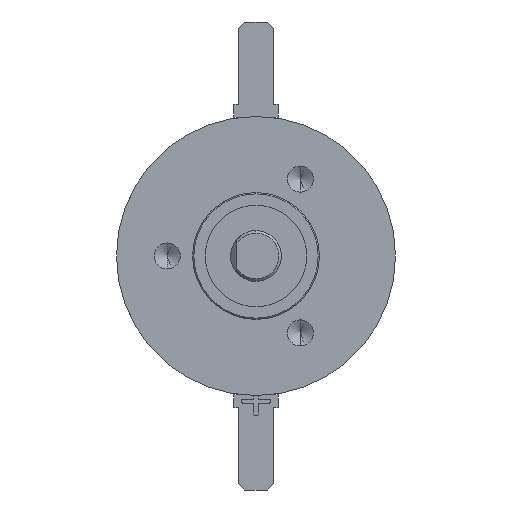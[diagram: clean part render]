
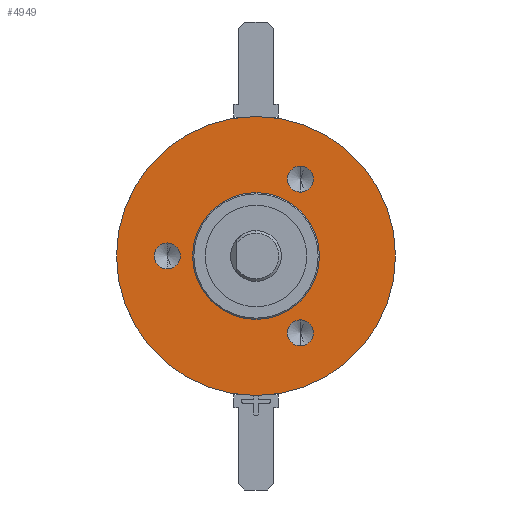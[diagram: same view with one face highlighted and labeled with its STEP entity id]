
A CAD part, left-side view. The second image highlights one B-rep face of the part: STEP entity #4949.
In plain terms, the highlighted planar face has unit normal (-1, 0, 0).
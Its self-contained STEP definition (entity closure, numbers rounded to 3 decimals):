
#140 = DIRECTION ( 'NONE',  ( 0., 0., 1. ) ) ;
#150 = DIRECTION ( 'NONE',  ( -1., 0., 0. ) ) ;
#152 = EDGE_CURVE ( 'NONE', #421, #3769, #15754, .T. ) ;
#171 = AXIS2_PLACEMENT_3D ( 'NONE', #9983, #9961, #9958 ) ;
#204 = CARTESIAN_POINT ( 'NONE',  ( 14.85, 0., 0. ) ) ;
#235 = CARTESIAN_POINT ( 'NONE',  ( 14.85, 0., -11. ) ) ;
#395 = EDGE_CURVE ( 'NONE', #3832, #7690, #14617, .T. ) ;
#421 = VERTEX_POINT ( 'NONE', #4166 ) ;
#504 = EDGE_CURVE ( 'NONE', #7690, #3832, #14247, .T. ) ;
#532 = AXIS2_PLACEMENT_3D ( 'NONE', #10922, #10909, #10907 ) ;
#557 = EDGE_CURVE ( 'NONE', #10287, #2121, #787, .T. ) ;
#591 = EDGE_CURVE ( 'NONE', #15279, #13711, #10472, .T. ) ;
#612 = EDGE_CURVE ( 'NONE', #2643, #1582, #9903, .T. ) ;
#655 = EDGE_CURVE ( 'NONE', #3769, #421, #13336, .T. ) ;
#672 = CARTESIAN_POINT ( 'NONE',  ( 14.85, -3.5, 7.087 ) ) ;
#787 = CIRCLE ( 'NONE', #14140, 1.025 ) ;
#847 = AXIS2_PLACEMENT_3D ( 'NONE', #11810, #11806, #11789 ) ;
#926 = DIRECTION ( 'NONE',  ( 0., 0., 1. ) ) ;
#932 = DIRECTION ( 'NONE',  ( -1., 0., 0. ) ) ;
#944 = CARTESIAN_POINT ( 'NONE',  ( 14.85, -3.5, -6.062 ) ) ;
#1368 = DIRECTION ( 'NONE',  ( 0., 0., 1. ) ) ;
#1410 = DIRECTION ( 'NONE',  ( -1., 0., 0. ) ) ;
#1458 = CARTESIAN_POINT ( 'NONE',  ( 14.85, -3.5, 6.062 ) ) ;
#1510 = ORIENTED_EDGE ( 'NONE', *, *, #504, .T. ) ;
#1582 = VERTEX_POINT ( 'NONE', #13440 ) ;
#2051 = DIRECTION ( 'NONE',  ( 0., 0., 1. ) ) ;
#2056 = DIRECTION ( 'NONE',  ( -1., 0., 0. ) ) ;
#2070 = CARTESIAN_POINT ( 'NONE',  ( 14.85, 7., 0. ) ) ;
#2121 = VERTEX_POINT ( 'NONE', #3379 ) ;
#2455 = DIRECTION ( 'NONE',  ( 0., 0., 1. ) ) ;
#2462 = DIRECTION ( 'NONE',  ( -1., 0., 0. ) ) ;
#2474 = CARTESIAN_POINT ( 'NONE',  ( 14.85, 0., 0. ) ) ;
#2507 = EDGE_LOOP ( 'NONE', ( #2740, #5176 ) ) ;
#2541 = EDGE_LOOP ( 'NONE', ( #7879, #7221 ) ) ;
#2643 = VERTEX_POINT ( 'NONE', #14411 ) ;
#2740 = ORIENTED_EDGE ( 'NONE', *, *, #557, .F. ) ;
#2812 = CARTESIAN_POINT ( 'NONE',  ( 14.85, 0., 11. ) ) ;
#3298 = FACE_OUTER_BOUND ( 'NONE', #7421, .T. ) ;
#3379 = CARTESIAN_POINT ( 'NONE',  ( 14.85, 7., -1.025 ) ) ;
#3769 = VERTEX_POINT ( 'NONE', #10448 ) ;
#3832 = VERTEX_POINT ( 'NONE', #2812 ) ;
#4166 = CARTESIAN_POINT ( 'NONE',  ( 14.85, 0., 5. ) ) ;
#4213 = DIRECTION ( 'NONE',  ( 0., 0., -1. ) ) ;
#4313 = DIRECTION ( 'NONE',  ( 1., 0., 0. ) ) ;
#4554 = PLANE ( 'NONE',  #13469 ) ;
#4597 = DIRECTION ( 'NONE',  ( 0., 0., 1. ) ) ;
#4613 = DIRECTION ( 'NONE',  ( -1., 0., 0. ) ) ;
#4640 = CARTESIAN_POINT ( 'NONE',  ( 14.85, 0., 0. ) ) ;
#4821 = FACE_BOUND ( 'NONE', #2507, .T. ) ;
#4949 = ADVANCED_FACE ( 'NONE', ( #4821, #9649, #8411, #8218, #3298 ), #4554, .F. ) ;
#4958 = CARTESIAN_POINT ( 'NONE',  ( 14.85, 5., 0. ) ) ;
#5176 = ORIENTED_EDGE ( 'NONE', *, *, #12812, .F. ) ;
#7221 = ORIENTED_EDGE ( 'NONE', *, *, #12942, .F. ) ;
#7421 = EDGE_LOOP ( 'NONE', ( #14014, #1510 ) ) ;
#7465 = ORIENTED_EDGE ( 'NONE', *, *, #612, .F. ) ;
#7651 = CARTESIAN_POINT ( 'NONE',  ( 14.85, -3.5, 5.037 ) ) ;
#7690 = VERTEX_POINT ( 'NONE', #235 ) ;
#7879 = ORIENTED_EDGE ( 'NONE', *, *, #591, .F. ) ;
#8085 = DIRECTION ( 'NONE',  ( 0., 0., 1. ) ) ;
#8099 = DIRECTION ( 'NONE',  ( -1., 0., 0. ) ) ;
#8108 = CARTESIAN_POINT ( 'NONE',  ( 14.85, 0., 0. ) ) ;
#8218 = FACE_BOUND ( 'NONE', #15046, .T. ) ;
#8411 = FACE_BOUND ( 'NONE', #10995, .T. ) ;
#9649 = FACE_BOUND ( 'NONE', #2541, .T. ) ;
#9903 = CIRCLE ( 'NONE', #13887, 1.025 ) ;
#9958 = DIRECTION ( 'NONE',  ( 0., 0., 1. ) ) ;
#9961 = DIRECTION ( 'NONE',  ( -1., 0., 0. ) ) ;
#9983 = CARTESIAN_POINT ( 'NONE',  ( 14.85, -3.5, -6.062 ) ) ;
#10287 = VERTEX_POINT ( 'NONE', #12614 ) ;
#10448 = CARTESIAN_POINT ( 'NONE',  ( 14.85, 0., -5. ) ) ;
#10472 = CIRCLE ( 'NONE', #14072, 1.025 ) ;
#10907 = DIRECTION ( 'NONE',  ( 0., 0., 1. ) ) ;
#10909 = DIRECTION ( 'NONE',  ( -1., 0., 0. ) ) ;
#10922 = CARTESIAN_POINT ( 'NONE',  ( 14.85, -3.5, 6.062 ) ) ;
#10995 = EDGE_LOOP ( 'NONE', ( #7465, #14230 ) ) ;
#11750 = CIRCLE ( 'NONE', #532, 1.025 ) ;
#11789 = DIRECTION ( 'NONE',  ( 0., 0., 1. ) ) ;
#11806 = DIRECTION ( 'NONE',  ( -1., 0., 0. ) ) ;
#11810 = CARTESIAN_POINT ( 'NONE',  ( 14.85, 7., 0. ) ) ;
#12603 = CIRCLE ( 'NONE', #171, 1.025 ) ;
#12614 = CARTESIAN_POINT ( 'NONE',  ( 14.85, 7., 1.025 ) ) ;
#12812 = EDGE_CURVE ( 'NONE', #2121, #10287, #13154, .T. ) ;
#12942 = EDGE_CURVE ( 'NONE', #13711, #15279, #11750, .T. ) ;
#13065 = EDGE_CURVE ( 'NONE', #1582, #2643, #12603, .T. ) ;
#13154 = CIRCLE ( 'NONE', #847, 1.025 ) ;
#13336 = CIRCLE ( 'NONE', #13716, 5. ) ;
#13440 = CARTESIAN_POINT ( 'NONE',  ( 14.85, -3.5, -7.087 ) ) ;
#13469 = AXIS2_PLACEMENT_3D ( 'NONE', #4958, #4313, #4213 ) ;
#13711 = VERTEX_POINT ( 'NONE', #7651 ) ;
#13716 = AXIS2_PLACEMENT_3D ( 'NONE', #204, #150, #140 ) ;
#13887 = AXIS2_PLACEMENT_3D ( 'NONE', #944, #932, #926 ) ;
#14014 = ORIENTED_EDGE ( 'NONE', *, *, #395, .T. ) ;
#14072 = AXIS2_PLACEMENT_3D ( 'NONE', #1458, #1410, #1368 ) ;
#14140 = AXIS2_PLACEMENT_3D ( 'NONE', #2070, #2056, #2051 ) ;
#14230 = ORIENTED_EDGE ( 'NONE', *, *, #13065, .F. ) ;
#14247 = CIRCLE ( 'NONE', #14275, 11. ) ;
#14275 = AXIS2_PLACEMENT_3D ( 'NONE', #2474, #2462, #2455 ) ;
#14307 = ORIENTED_EDGE ( 'NONE', *, *, #152, .F. ) ;
#14358 = ORIENTED_EDGE ( 'NONE', *, *, #655, .F. ) ;
#14411 = CARTESIAN_POINT ( 'NONE',  ( 14.85, -3.5, -5.037 ) ) ;
#14612 = AXIS2_PLACEMENT_3D ( 'NONE', #4640, #4613, #4597 ) ;
#14617 = CIRCLE ( 'NONE', #14612, 11. ) ;
#15046 = EDGE_LOOP ( 'NONE', ( #14307, #14358 ) ) ;
#15279 = VERTEX_POINT ( 'NONE', #672 ) ;
#15430 = AXIS2_PLACEMENT_3D ( 'NONE', #8108, #8099, #8085 ) ;
#15754 = CIRCLE ( 'NONE', #15430, 5. ) ;
